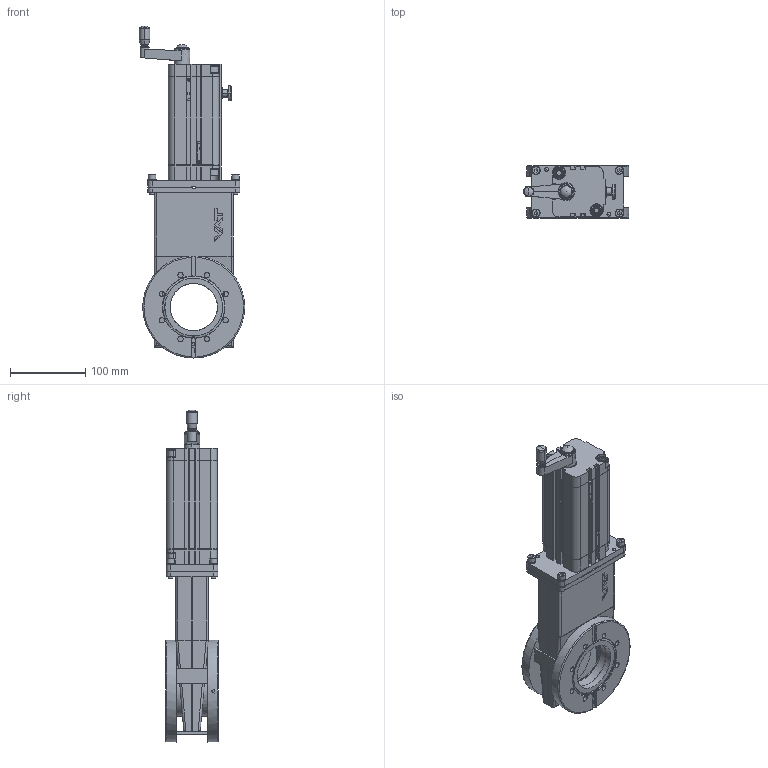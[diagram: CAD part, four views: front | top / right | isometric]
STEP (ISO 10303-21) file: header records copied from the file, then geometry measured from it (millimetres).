
FILE_DESCRIPTION(/* description */ (''),/* implementation_level */ '2;1');
FILE_NAME(/* name */ '1399960370_203.stp',/* time_stamp */ '2013-09-10T11:49:57+02:00',/* author */ (''),/* organization */ (''),/* preprocessor_version */ 'ST-DEVELOPER v11',/* originating_system */ 'SIEMENS PLM Software NX 7.5',/* authorisation */ '');
FILE_SCHEMA (('AP203_CONFIGURATION_CONTROLLED_3D_DESIGN_OF_MECHANICAL_PARTS_AND_ASSEMBLIES_MIM_LF'));
Products named in the file (28): 255555.1; 323152.1; 251262.4; 255557.2; 323148.3; 306404.3; 301626.1; 259462.4; 261012.1; N-6092-118.1; 261334.1; n-6134-408; 218189; n-6195-408; 260826.1; 260719.2; 255217.1; 301646.1; 332680.2; 261405.3; 261406.2; 259432.1; 259597.1; 255553.3; 323153.4; 260828.6; 261335.1; 355271.2
Assembly tree (43 placements, depth 4):
  355271.2
    259597.1  x4
    259432.1
    261406.2
    261335.1
      261334.1
      N-6092-118.1  x2
    261405.3
    332680.2
    301646.1
    255217.1  x2
    260828.6
      261012.1  x2
      259462.4
      301626.1
    260719.2
    260826.1
    n-6195-408
    218189  x4
    n-6134-408  x4
    323153.4
      306404.3
      323148.3
      255557.2  x2
      251262.4  x3
      323152.1
      255553.3
        255555.1  x2
Bounding box: 140.4 x 70 x 442.56 mm (x, y, z)
Volume: 950999.6 mm3; surface area: 379593.9 mm2
Topology: 47 solids, 47 shells, 1522 faces, 3913 edges, 2553 vertices
Faces by surface type: plane 797, cylinder 375, bspline 135, revolution 124, cone 73, torus 12, sphere 4, extrusion 2
Full cylindrical faces by diameter (mm): 1.7 x1, 4.96 x4, 4.976 x2, 5 x8, 5.2 x6, 5.3 x1, 5.7 x2, 6 x10, 6.4 x4, 6.5 x6, 7.2 x16, 7.976 x2, 10 x4, 10.008 x1, 10.4 x4, 11 x6, 11.5 x4, 12.025 x2, 15 x1, 15.2 x1, 16 x1, 16.2 x1, 19.011 x1, 19.035 x2, 21.976 x1, 23 x1, 30.011 x1, 30.03 x1, 49.971 x1, 50 x1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
Entity records: 49933 total; most frequent: CARTESIAN_POINT 19408, ORIENTED_EDGE 5578, DIRECTION 5150, EDGE_CURVE 2789, VERTEX_POINT 1915, AXIS2_PLACEMENT_3D 1737, VECTOR 1602, LINE 1600
